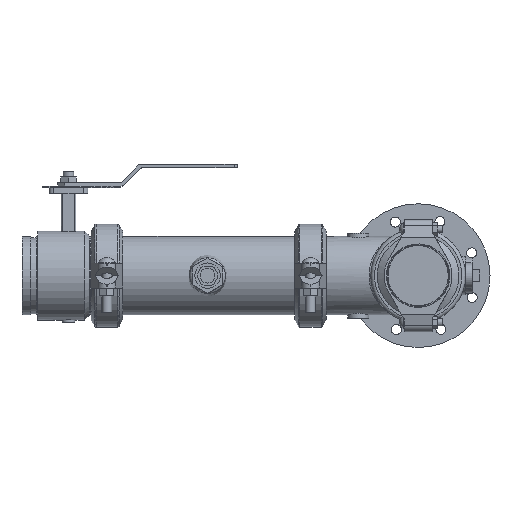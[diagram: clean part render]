
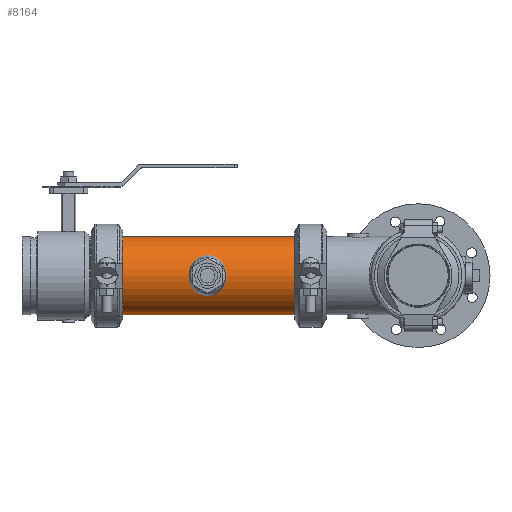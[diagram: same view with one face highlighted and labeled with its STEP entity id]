
A CAD part, left-side view. The second image highlights one B-rep face of the part: STEP entity #8164.
In plain terms, the highlighted cylindrical face has radius 70.65 mm (diameter 141.3 mm), a full revolution.
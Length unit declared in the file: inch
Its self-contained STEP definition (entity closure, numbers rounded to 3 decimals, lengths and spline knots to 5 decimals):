
#701=FACE_OUTER_BOUND('',#1204,.T.);
#1204=EDGE_LOOP('',(#6024,#6025,#6026,#6027,#6028,#6029));
#1752=CIRCLE('',#9012,2.7815);
#1753=CIRCLE('',#9013,2.7815);
#1754=CIRCLE('',#9015,2.7815);
#1755=CIRCLE('',#9016,2.7815);
#2218=LINE('',#13958,#2807);
#2807=VECTOR('',#10594,2.7815);
#3509=VERTEX_POINT('',#13949);
#3510=VERTEX_POINT('',#13950);
#3511=VERTEX_POINT('',#13954);
#3512=VERTEX_POINT('',#13955);
#4420=EDGE_CURVE('',#3509,#3510,#1752,.T.);
#4421=EDGE_CURVE('',#3510,#3509,#1753,.T.);
#4422=EDGE_CURVE('',#3511,#3512,#1754,.T.);
#4423=EDGE_CURVE('',#3512,#3511,#1755,.T.);
#4424=EDGE_CURVE('',#3512,#3510,#2218,.T.);
#6024=ORIENTED_EDGE('',*,*,#4422,.F.);
#6025=ORIENTED_EDGE('',*,*,#4423,.F.);
#6026=ORIENTED_EDGE('',*,*,#4424,.T.);
#6027=ORIENTED_EDGE('',*,*,#4421,.T.);
#6028=ORIENTED_EDGE('',*,*,#4420,.T.);
#6029=ORIENTED_EDGE('',*,*,#4424,.F.);
#7443=CYLINDRICAL_SURFACE('',#9014,2.7815);
#8164=ADVANCED_FACE('',(#701),#7443,.T.);
#9012=AXIS2_PLACEMENT_3D('',#13951,#10584,#10585);
#9013=AXIS2_PLACEMENT_3D('',#13952,#10586,#10587);
#9014=AXIS2_PLACEMENT_3D('',#13953,#10588,#10589);
#9015=AXIS2_PLACEMENT_3D('',#13956,#10590,#10591);
#9016=AXIS2_PLACEMENT_3D('',#13957,#10592,#10593);
#10584=DIRECTION('center_axis',(0.,-1.,0.));
#10585=DIRECTION('ref_axis',(1.,0.,0.));
#10586=DIRECTION('center_axis',(0.,-1.,0.));
#10587=DIRECTION('ref_axis',(1.,0.,0.));
#10588=DIRECTION('center_axis',(0.,-1.,0.));
#10589=DIRECTION('ref_axis',(1.,0.,0.));
#10590=DIRECTION('center_axis',(0.,-1.,0.));
#10591=DIRECTION('ref_axis',(1.,0.,0.));
#10592=DIRECTION('center_axis',(0.,-1.,0.));
#10593=DIRECTION('ref_axis',(1.,0.,0.));
#10594=DIRECTION('',(0.,1.,0.));
#13949=CARTESIAN_POINT('',(2.7815,6.085,0.));
#13950=CARTESIAN_POINT('',(-2.7815,6.085,0.));
#13951=CARTESIAN_POINT('Origin',(0.,6.085,0.));
#13952=CARTESIAN_POINT('Origin',(0.,6.085,0.));
#13953=CARTESIAN_POINT('Origin',(0.,0.,
0.));
#13954=CARTESIAN_POINT('',(2.7815,-6.085,0.));
#13955=CARTESIAN_POINT('',(-2.7815,-6.085,0.));
#13956=CARTESIAN_POINT('Origin',(0.,-6.085,0.));
#13957=CARTESIAN_POINT('Origin',(0.,-6.085,0.));
#13958=CARTESIAN_POINT('',(-2.7815,0.,0.));
